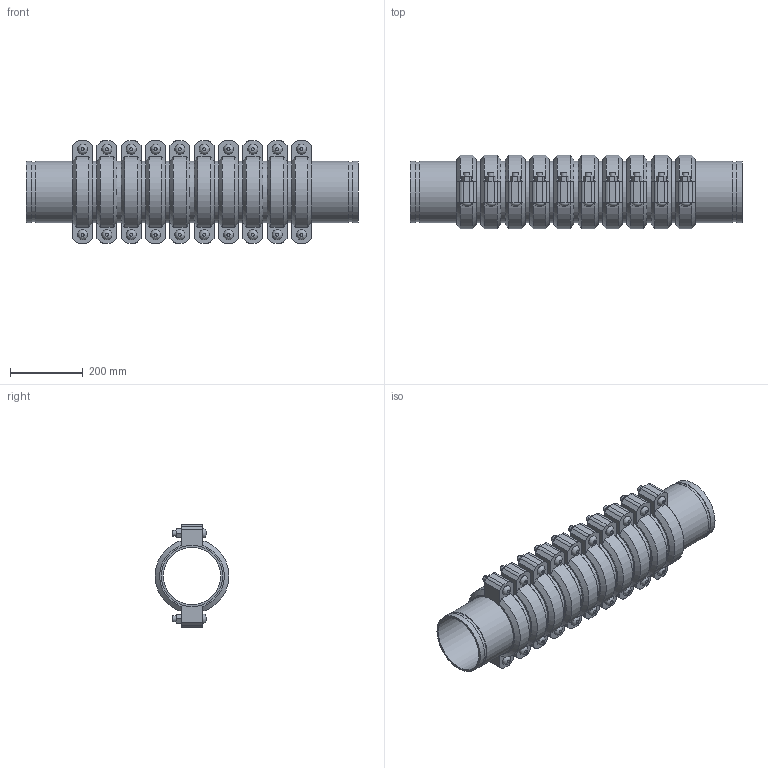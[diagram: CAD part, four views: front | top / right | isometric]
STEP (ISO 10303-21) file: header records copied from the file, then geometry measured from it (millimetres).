
FILE_DESCRIPTION(/* description */ ('VIC EXPANSION JOINT 10 COUPLINGS EXPANDED STYLE 155 (OGS)','CAx-IF Rec.Pracs.---Representation and Presentation of Product Manufacturing Information (PMI)---4.0---2014-10-13'),/* implementation_level */ '2;1');
FILE_NAME(/* name */ 'C:\Users\kkamble\AppData\Roaming\Autodesk\ApplicationPlugins\Victaulic.Temp\A992\Victaulic_IPS_Expansion Joint_Expanded_10 Couplings_Style 155 (OGS)_6 (150).stp',/* time_stamp */ '2021-06-26T23:50:05+02:00',/* author */ ('kkamble'),/* organization */ ('Victaulic'),/* preprocessor_version */ 'ST-DEVELOPER v17.2',/* originating_system */ 'Autodesk Inventor 2019',/* authorisation */ '');
FILE_SCHEMA (('AP242_MANAGED_MODEL_BASED_3D_ENGINEERING_MIM_LF { 1 0 10303 442 1 1 4 }'));
Length unit declared in the file: inch
Products named in the file (4): 155-06.0; Nipple-06.0; Nipple-06.0_1; 075-06.0
Assembly tree (21 placements, depth 2):
  155-06.0
    Nipple-06.0  x2
    Nipple-06.0_1  x9
    075-06.0  x10
Bounding box: 911.61 x 202.46 x 281.18 mm (x, y, z)
Volume: 9812568.8 mm3; surface area: 2139454.6 mm2
Topology: 21 solids, 41 shells, 702 faces, 1660 edges, 1164 vertices
Faces by surface type: plane 426, cylinder 216, cone 40, bspline 20
Full cylindrical faces by diameter (mm): 15.875 x40, 17.424 x20, 157.15 x11, 161.925 x10, 163.957 x22, 168.275 x53
Entity records: 2881 total; most frequent: CARTESIAN_POINT 505, DIRECTION 485, ORIENTED_EDGE 386, AXIS2_PLACEMENT_3D 196, EDGE_CURVE 193, VERTEX_POINT 138, EDGE_LOOP 107, LINE 93
